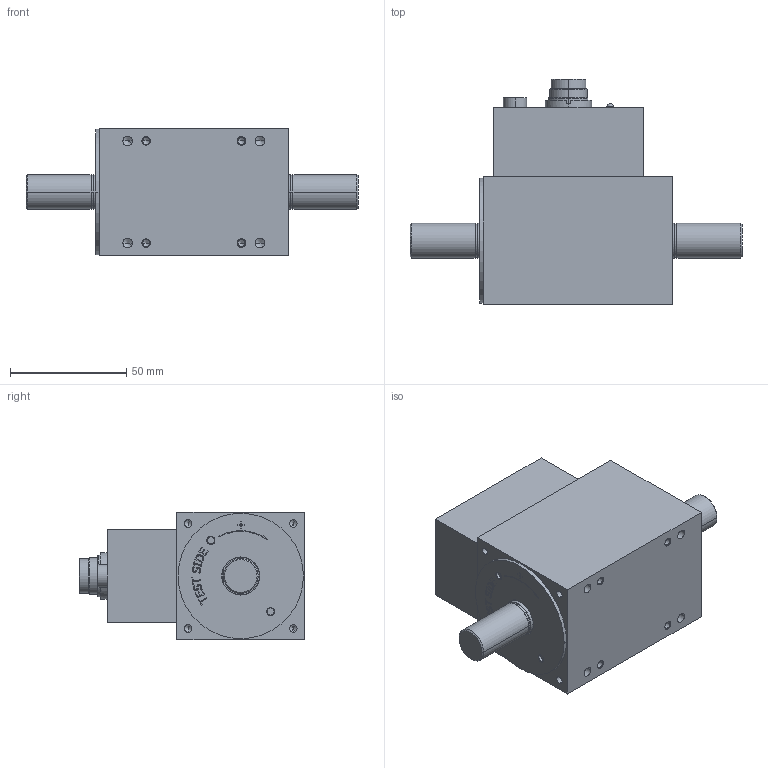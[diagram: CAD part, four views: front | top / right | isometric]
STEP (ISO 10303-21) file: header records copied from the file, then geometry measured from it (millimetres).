
FILE_DESCRIPTION(('STEP AP214'),'1');
FILE_NAME('burster_8661-5010-vxx00_98ww9v2jjezydbfgup53vwoce.stp','2017-04-20T20:13:15',('TraceParts'),('TraceParts S.A.'),'Spatial InterOp 3D',' ',' ');
FILE_SCHEMA(('automotive_design'));
Length unit declared in the file: millimetre
Products named in the file (1): burster_8661-5010-vxx00_98ww9v2jjezydbfgup53vwoce
Bounding box: 143 x 97 x 55 mm (x, y, z)
Volume: 337391.1 mm3; surface area: 38442.4 mm2
Topology: 1 solids, 7 shells, 865 faces, 2269 edges, 1442 vertices
Faces by surface type: plane 375, cylinder 207, cone 142, bspline 79, torus 32, sphere 30
Entity records: 34006 total; most frequent: CARTESIAN_POINT 5999, ORIENTED_EDGE 4398, DIRECTION 4305, EDGE_CURVE 2199, AXIS2_PLACEMENT_3D 1511, VERTEX_POINT 1442, LINE 1283, VECTOR 1283
